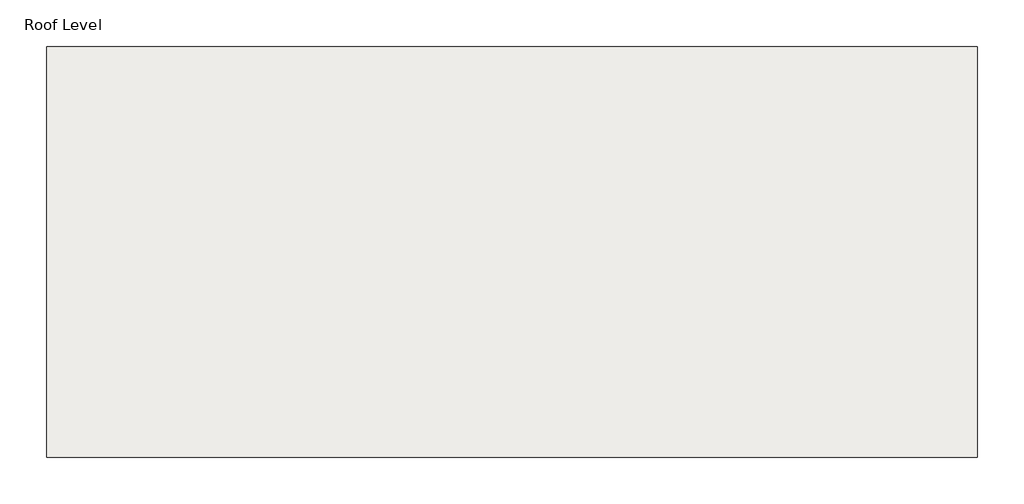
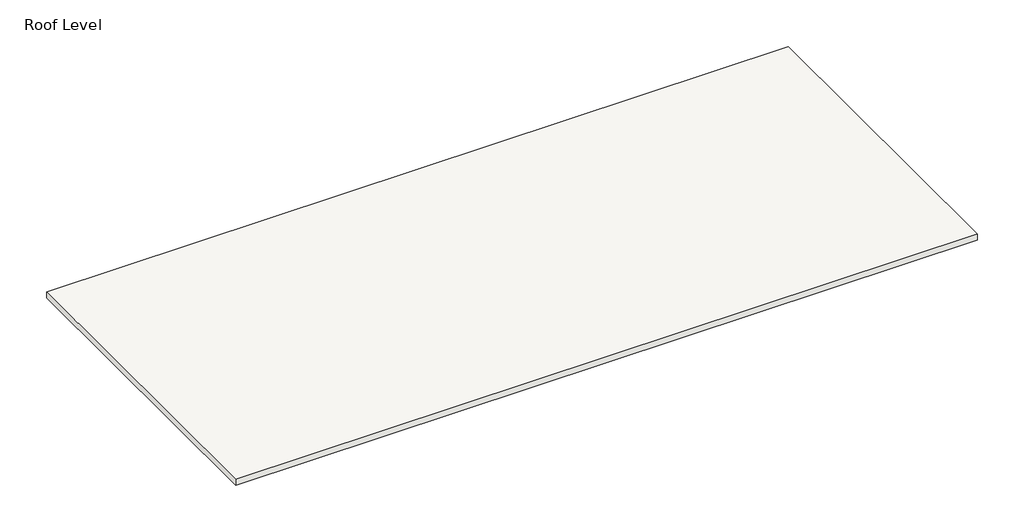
# One storey: 1 roof.
"""IFC4 building model written with IfcOpenShell, lengths in millimetres."""

from ifc_helpers import new_model, si_unit, frame, origin, place, context, project, spatial, polyline, outline, extrude, element, save

model = new_model("IFC4")

# Units and contexts
model_context = context("Model", 3, world=origin())
ifc_project = project(units=[si_unit("LENGTHUNIT", "METRE", prefix="MILLI")], contexts=[model_context])

# Site, building, storey
site = spatial("IfcSite", under=ifc_project)
building = spatial("IfcBuilding", under=site)
storey = spatial("IfcBuildingStorey", under=building, Name="Roof Level", Elevation=11938.0)

# Roof
placement = place(None, origin())
element("IfcRoof", 1, ObjectType="Generic - 125mm", at=placement, inside=storey, context=model_context, shape_type="SweptSolid", body=[
    extrude(outline(polyline([(-6308.0198612, 1889.6075821), (8901.9801388, 1889.6075821), (8901.9801388, -4820.3924179), (-6308.0198612, -4820.3924179), (-6308.0198612, 1889.6075821)])), frame((0.0, 0.0, 11638.0), z_axis=(0.0, 0.0, 1.0), x_axis=(1.0, 0.0, 0.0)), (0.0, 0.0, 1.0), 125.0),
])

save(model, "model.ifc")
